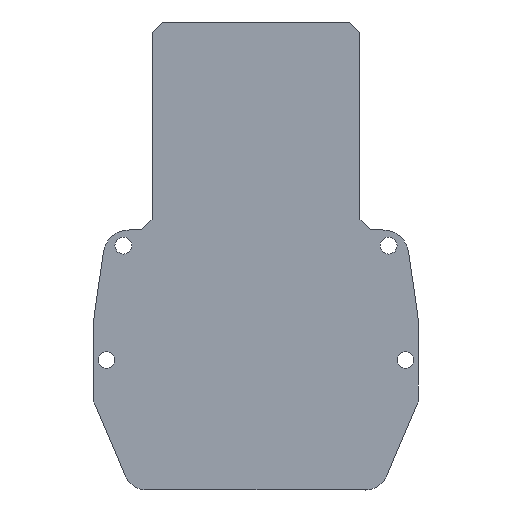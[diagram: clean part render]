
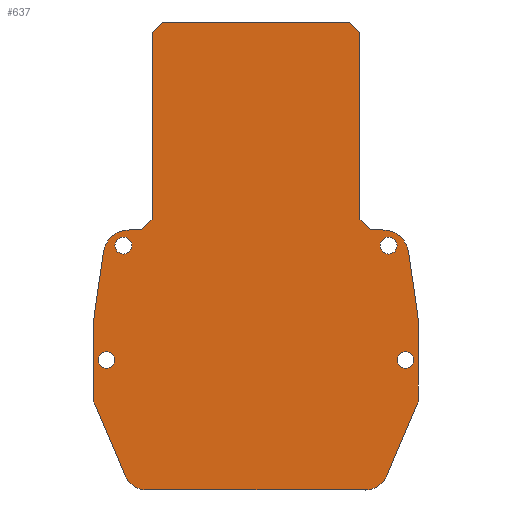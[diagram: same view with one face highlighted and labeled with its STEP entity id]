
A CAD part, top view. The second image highlights one B-rep face of the part: STEP entity #637.
In plain terms, the highlighted planar face has unit normal (0, 0, 1).
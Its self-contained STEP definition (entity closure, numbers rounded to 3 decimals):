
#20=LINE('',#905,#82);
#25=LINE('',#920,#87);
#29=LINE('',#932,#91);
#33=LINE('',#944,#95);
#37=LINE('',#956,#99);
#41=LINE('',#968,#103);
#45=LINE('',#980,#107);
#48=LINE('',#986,#110);
#51=LINE('',#992,#113);
#55=LINE('',#1004,#117);
#59=LINE('',#1016,#121);
#62=LINE('',#1022,#124);
#66=LINE('',#1031,#128);
#69=LINE('',#1037,#131);
#72=LINE('',#1043,#134);
#75=LINE('',#1049,#137);
#77=LINE('',#1052,#139);
#80=LINE('',#1058,#142);
#82=VECTOR('',#735,1000.);
#87=VECTOR('',#748,1000.);
#91=VECTOR('',#760,1000.);
#95=VECTOR('',#772,1000.);
#99=VECTOR('',#784,1000.);
#103=VECTOR('',#796,1000.);
#107=VECTOR('',#808,1000.);
#110=VECTOR('',#813,1000.);
#113=VECTOR('',#818,1000.);
#117=VECTOR('',#830,1000.);
#121=VECTOR('',#842,1000.);
#124=VECTOR('',#847,1000.);
#128=VECTOR('',#853,1000.);
#131=VECTOR('',#858,1000.);
#134=VECTOR('',#863,1000.);
#137=VECTOR('',#868,1000.);
#139=VECTOR('',#872,1000.);
#142=VECTOR('',#877,1000.);
#163=PLANE('',#706);
#306=ORIENTED_EDGE('',*,*,#337,.T.);
#307=ORIENTED_EDGE('',*,*,#339,.T.);
#308=ORIENTED_EDGE('',*,*,#341,.T.);
#309=ORIENTED_EDGE('',*,*,#343,.T.);
#310=ORIENTED_EDGE('',*,*,#420,.F.);
#311=ORIENTED_EDGE('',*,*,#402,.F.);
#312=ORIENTED_EDGE('',*,*,#406,.F.);
#313=ORIENTED_EDGE('',*,*,#409,.F.);
#314=ORIENTED_EDGE('',*,*,#412,.F.);
#315=ORIENTED_EDGE('',*,*,#415,.F.);
#316=ORIENTED_EDGE('',*,*,#344,.F.);
#317=ORIENTED_EDGE('',*,*,#348,.F.);
#318=ORIENTED_EDGE('',*,*,#351,.F.);
#319=ORIENTED_EDGE('',*,*,#354,.F.);
#320=ORIENTED_EDGE('',*,*,#357,.F.);
#321=ORIENTED_EDGE('',*,*,#360,.F.);
#322=ORIENTED_EDGE('',*,*,#363,.F.);
#323=ORIENTED_EDGE('',*,*,#366,.F.);
#324=ORIENTED_EDGE('',*,*,#369,.F.);
#325=ORIENTED_EDGE('',*,*,#372,.F.);
#326=ORIENTED_EDGE('',*,*,#375,.F.);
#327=ORIENTED_EDGE('',*,*,#378,.F.);
#328=ORIENTED_EDGE('',*,*,#381,.F.);
#329=ORIENTED_EDGE('',*,*,#384,.F.);
#330=ORIENTED_EDGE('',*,*,#387,.F.);
#331=ORIENTED_EDGE('',*,*,#390,.F.);
#332=ORIENTED_EDGE('',*,*,#393,.F.);
#333=ORIENTED_EDGE('',*,*,#396,.F.);
#334=ORIENTED_EDGE('',*,*,#399,.F.);
#335=ORIENTED_EDGE('',*,*,#417,.F.);
#337=EDGE_CURVE('',#423,#423,#483,.T.);
#339=EDGE_CURVE('',#425,#425,#485,.T.);
#341=EDGE_CURVE('',#427,#427,#487,.T.);
#343=EDGE_CURVE('',#429,#429,#489,.T.);
#344=EDGE_CURVE('',#430,#431,#20,.T.);
#348=EDGE_CURVE('',#434,#430,#490,.T.);
#351=EDGE_CURVE('',#436,#434,#25,.T.);
#354=EDGE_CURVE('',#438,#436,#492,.T.);
#357=EDGE_CURVE('',#440,#438,#29,.T.);
#360=EDGE_CURVE('',#442,#440,#494,.T.);
#363=EDGE_CURVE('',#444,#442,#33,.T.);
#366=EDGE_CURVE('',#446,#444,#496,.T.);
#369=EDGE_CURVE('',#448,#446,#37,.T.);
#372=EDGE_CURVE('',#450,#448,#498,.T.);
#375=EDGE_CURVE('',#452,#450,#41,.T.);
#378=EDGE_CURVE('',#454,#452,#500,.T.);
#381=EDGE_CURVE('',#456,#454,#45,.T.);
#384=EDGE_CURVE('',#458,#456,#48,.T.);
#387=EDGE_CURVE('',#460,#458,#51,.T.);
#390=EDGE_CURVE('',#462,#460,#502,.T.);
#393=EDGE_CURVE('',#464,#462,#55,.T.);
#396=EDGE_CURVE('',#466,#464,#504,.T.);
#399=EDGE_CURVE('',#468,#466,#59,.T.);
#402=EDGE_CURVE('',#470,#471,#62,.T.);
#406=EDGE_CURVE('',#474,#470,#66,.T.);
#409=EDGE_CURVE('',#476,#474,#69,.T.);
#412=EDGE_CURVE('',#478,#476,#72,.T.);
#415=EDGE_CURVE('',#431,#478,#75,.T.);
#417=EDGE_CURVE('',#480,#468,#77,.T.);
#420=EDGE_CURVE('',#471,#480,#80,.T.);
#423=VERTEX_POINT('',#888);
#425=VERTEX_POINT('',#893);
#427=VERTEX_POINT('',#898);
#429=VERTEX_POINT('',#903);
#430=VERTEX_POINT('',#906);
#431=VERTEX_POINT('',#907);
#434=VERTEX_POINT('',#915);
#436=VERTEX_POINT('',#921);
#438=VERTEX_POINT('',#927);
#440=VERTEX_POINT('',#933);
#442=VERTEX_POINT('',#939);
#444=VERTEX_POINT('',#945);
#446=VERTEX_POINT('',#951);
#448=VERTEX_POINT('',#957);
#450=VERTEX_POINT('',#963);
#452=VERTEX_POINT('',#969);
#454=VERTEX_POINT('',#975);
#456=VERTEX_POINT('',#981);
#458=VERTEX_POINT('',#987);
#460=VERTEX_POINT('',#993);
#462=VERTEX_POINT('',#999);
#464=VERTEX_POINT('',#1005);
#466=VERTEX_POINT('',#1011);
#468=VERTEX_POINT('',#1017);
#470=VERTEX_POINT('',#1023);
#471=VERTEX_POINT('',#1024);
#474=VERTEX_POINT('',#1032);
#476=VERTEX_POINT('',#1038);
#478=VERTEX_POINT('',#1044);
#480=VERTEX_POINT('',#1053);
#483=CIRCLE('',#653,3.25);
#485=CIRCLE('',#656,3.25);
#487=CIRCLE('',#659,3.25);
#489=CIRCLE('',#662,3.25);
#490=CIRCLE('',#665,10.);
#492=CIRCLE('',#669,5.);
#494=CIRCLE('',#673,5.);
#496=CIRCLE('',#677,9.);
#498=CIRCLE('',#681,9.);
#500=CIRCLE('',#685,5.);
#502=CIRCLE('',#691,5.);
#504=CIRCLE('',#695,10.);
#545=EDGE_LOOP('',(#306));
#546=EDGE_LOOP('',(#307));
#547=EDGE_LOOP('',(#308));
#548=EDGE_LOOP('',(#309));
#549=EDGE_LOOP('',(#310,#311,#312,#313,#314,#315,#316,#317,#318,#319,#320,
#321,#322,#323,#324,#325,#326,#327,#328,#329,#330,#331,#332,#333,#334,#335));
#589=FACE_BOUND('',#545,.T.);
#590=FACE_BOUND('',#546,.T.);
#591=FACE_BOUND('',#547,.T.);
#592=FACE_BOUND('',#548,.T.);
#593=FACE_BOUND('',#549,.T.);
#637=ADVANCED_FACE('',(#589,#590,#591,#592,#593),#163,.T.);
#653=AXIS2_PLACEMENT_3D('',#887,#713,#714);
#656=AXIS2_PLACEMENT_3D('',#892,#719,#720);
#659=AXIS2_PLACEMENT_3D('',#897,#725,#726);
#662=AXIS2_PLACEMENT_3D('',#902,#731,#732);
#665=AXIS2_PLACEMENT_3D('',#914,#741,#742);
#669=AXIS2_PLACEMENT_3D('',#926,#753,#754);
#673=AXIS2_PLACEMENT_3D('',#938,#765,#766);
#677=AXIS2_PLACEMENT_3D('',#950,#777,#778);
#681=AXIS2_PLACEMENT_3D('',#962,#789,#790);
#685=AXIS2_PLACEMENT_3D('',#974,#801,#802);
#691=AXIS2_PLACEMENT_3D('',#998,#823,#824);
#695=AXIS2_PLACEMENT_3D('',#1010,#835,#836);
#706=AXIS2_PLACEMENT_3D('',#1061,#881,#882);
#713=DIRECTION('',(0.,0.,-1.));
#714=DIRECTION('',(1.,0.,0.));
#719=DIRECTION('',(0.,0.,-1.));
#720=DIRECTION('',(1.,0.,0.));
#725=DIRECTION('',(0.,0.,-1.));
#726=DIRECTION('',(1.,0.,0.));
#731=DIRECTION('',(0.,0.,-1.));
#732=DIRECTION('',(1.,0.,0.));
#735=DIRECTION('',(1.,0.,0.));
#741=DIRECTION('',(0.,0.,-1.));
#742=DIRECTION('',(-0.99,0.142,0.));
#748=DIRECTION('',(0.142,0.99,0.));
#753=DIRECTION('',(0.,0.,-1.));
#754=DIRECTION('',(-1.,0.,0.));
#760=DIRECTION('',(0.,1.,0.));
#765=DIRECTION('',(0.,0.,-1.));
#766=DIRECTION('',(-0.921,-0.391,0.));
#772=DIRECTION('',(-0.391,0.921,0.));
#777=DIRECTION('',(0.,0.,-1.));
#778=DIRECTION('',(0.,-1.,0.));
#784=DIRECTION('',(-1.,0.,0.));
#789=DIRECTION('',(0.,0.,-1.));
#790=DIRECTION('',(0.921,-0.391,0.));
#796=DIRECTION('',(-0.391,-0.921,0.));
#801=DIRECTION('',(0.,0.,-1.));
#802=DIRECTION('',(1.,0.,0.));
#808=DIRECTION('',(0.,-1.,0.));
#813=DIRECTION('',(0.,-1.,0.));
#818=DIRECTION('',(0.,-1.,0.));
#823=DIRECTION('',(0.,0.,-1.));
#824=DIRECTION('',(0.99,0.142,0.));
#830=DIRECTION('',(0.142,-0.99,0.));
#835=DIRECTION('',(0.,0.,-1.));
#836=DIRECTION('',(0.,1.,0.));
#842=DIRECTION('',(1.,0.,0.));
#847=DIRECTION('',(0.707,-0.707,0.));
#853=DIRECTION('',(1.,0.,0.));
#858=DIRECTION('',(0.707,0.707,0.));
#863=DIRECTION('',(0.,1.,0.));
#868=DIRECTION('',(0.707,0.707,0.));
#872=DIRECTION('',(0.707,-0.707,0.));
#877=DIRECTION('',(0.,-1.,0.));
#881=DIRECTION('',(0.,0.,1.));
#882=DIRECTION('',(1.,0.,0.));
#887=CARTESIAN_POINT('',(-519.962,389.128,-1.5));
#888=CARTESIAN_POINT('',(-523.212,389.128,-1.5));
#892=CARTESIAN_POINT('',(-634.962,389.128,-1.5));
#893=CARTESIAN_POINT('',(-638.212,389.128,-1.5));
#897=CARTESIAN_POINT('',(-628.462,433.128,-1.5));
#898=CARTESIAN_POINT('',(-631.712,433.128,-1.5));
#902=CARTESIAN_POINT('',(-526.462,433.128,-1.5));
#903=CARTESIAN_POINT('',(-529.712,433.128,-1.5));
#905=CARTESIAN_POINT('',(-626.287,439.128,-1.5));
#906=CARTESIAN_POINT('',(-626.287,439.128,-1.5));
#907=CARTESIAN_POINT('',(-621.462,439.128,-1.5));
#914=CARTESIAN_POINT('',(-626.278,429.128,-1.5));
#915=CARTESIAN_POINT('',(-636.177,430.546,-1.5));
#920=CARTESIAN_POINT('',(-639.911,404.48,-1.5));
#921=CARTESIAN_POINT('',(-639.911,404.48,-1.5));
#926=CARTESIAN_POINT('',(-634.962,403.771,-1.5));
#927=CARTESIAN_POINT('',(-639.962,403.771,-1.5));
#932=CARTESIAN_POINT('',(-639.962,374.406,-1.5));
#933=CARTESIAN_POINT('',(-639.962,374.406,-1.5));
#938=CARTESIAN_POINT('',(-634.962,374.406,-1.5));
#939=CARTESIAN_POINT('',(-639.565,372.452,-1.5));
#944=CARTESIAN_POINT('',(-627.747,344.611,-1.5));
#945=CARTESIAN_POINT('',(-627.747,344.611,-1.5));
#950=CARTESIAN_POINT('',(-619.462,348.128,-1.5));
#951=CARTESIAN_POINT('',(-619.462,339.128,-1.5));
#956=CARTESIAN_POINT('',(-535.462,339.128,-1.5));
#957=CARTESIAN_POINT('',(-535.462,339.128,-1.5));
#962=CARTESIAN_POINT('',(-535.462,348.128,-1.5));
#963=CARTESIAN_POINT('',(-527.177,344.611,-1.5));
#968=CARTESIAN_POINT('',(-515.359,372.452,-1.5));
#969=CARTESIAN_POINT('',(-515.359,372.452,-1.5));
#974=CARTESIAN_POINT('',(-519.962,374.406,-1.5));
#975=CARTESIAN_POINT('',(-514.962,374.406,-1.5));
#980=CARTESIAN_POINT('',(-514.962,388.554,-1.5));
#981=CARTESIAN_POINT('',(-514.962,388.554,-1.5));
#986=CARTESIAN_POINT('',(-514.962,389.701,-1.5));
#987=CARTESIAN_POINT('',(-514.962,389.701,-1.5));
#992=CARTESIAN_POINT('',(-514.962,403.771,-1.5));
#993=CARTESIAN_POINT('',(-514.962,403.771,-1.5));
#998=CARTESIAN_POINT('',(-519.962,403.771,-1.5));
#999=CARTESIAN_POINT('',(-515.013,404.48,-1.5));
#1004=CARTESIAN_POINT('',(-518.747,430.546,-1.5));
#1005=CARTESIAN_POINT('',(-518.747,430.546,-1.5));
#1010=CARTESIAN_POINT('',(-528.646,429.128,-1.5));
#1011=CARTESIAN_POINT('',(-528.646,439.128,-1.5));
#1016=CARTESIAN_POINT('',(-533.462,439.128,-1.5));
#1017=CARTESIAN_POINT('',(-533.462,439.128,-1.5));
#1022=CARTESIAN_POINT('',(-541.462,519.128,-1.5));
#1023=CARTESIAN_POINT('',(-541.462,519.128,-1.5));
#1024=CARTESIAN_POINT('',(-537.462,515.128,-1.5));
#1031=CARTESIAN_POINT('',(-613.462,519.128,-1.5));
#1032=CARTESIAN_POINT('',(-613.462,519.128,-1.5));
#1037=CARTESIAN_POINT('',(-617.462,515.128,-1.5));
#1038=CARTESIAN_POINT('',(-617.462,515.128,-1.5));
#1043=CARTESIAN_POINT('',(-617.462,443.128,-1.5));
#1044=CARTESIAN_POINT('',(-617.462,443.128,-1.5));
#1049=CARTESIAN_POINT('',(-621.462,439.128,-1.5));
#1052=CARTESIAN_POINT('',(-537.462,443.128,-1.5));
#1053=CARTESIAN_POINT('',(-537.462,443.128,-1.5));
#1058=CARTESIAN_POINT('',(-537.462,515.128,-1.5));
#1061=CARTESIAN_POINT('',(-577.462,477.168,-1.5));
